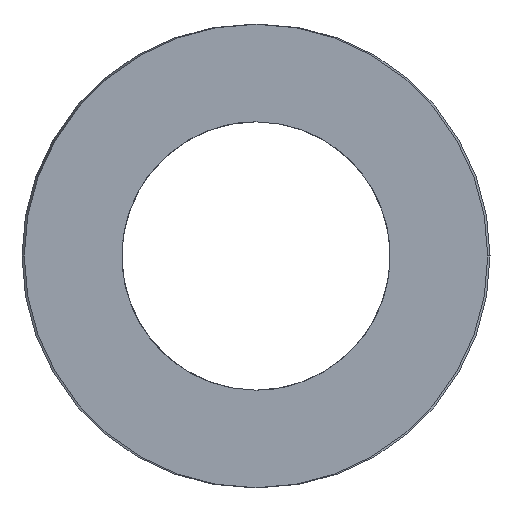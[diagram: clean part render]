
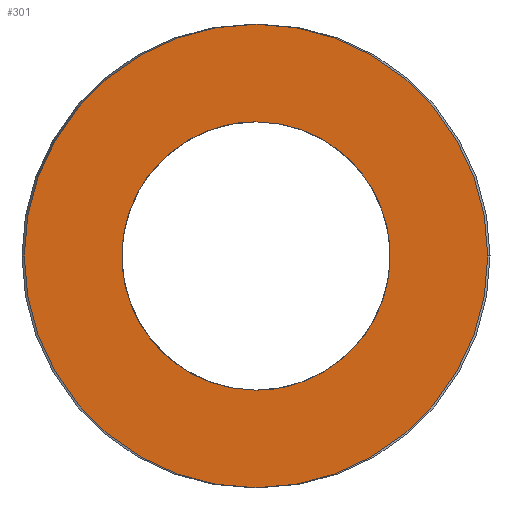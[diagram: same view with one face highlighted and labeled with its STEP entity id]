
A CAD part, left-side view. The second image highlights one B-rep face of the part: STEP entity #301.
In plain terms, the highlighted planar face has unit normal (-1, 0, 0).
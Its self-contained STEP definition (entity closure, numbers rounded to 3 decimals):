
#63=CARTESIAN_POINT('Vertex',(0.,7.6,0.)) ;
#77=CARTESIAN_POINT('Vertex',(0.,-7.6,0.)) ;
#80=CARTESIAN_POINT('Axis2P3D Location',(0.,0.,0.)) ;
#97=CARTESIAN_POINT('Axis2P3D Location',(0.,0.,0.)) ;
#232=CARTESIAN_POINT('Axis2P3D Location',(0.,3.8,0.)) ;
#242=CARTESIAN_POINT('Control Point',(0.,0.,-4.4)) ;
#243=CARTESIAN_POINT('Control Point',(0.,0.411,-4.4)) ;
#244=CARTESIAN_POINT('Control Point',(0.,0.822,-4.352)) ;
#245=CARTESIAN_POINT('Control Point',(0.,1.226,-4.256)) ;
#246=CARTESIAN_POINT('Control Point',(0.,2.003,-3.972)) ;
#247=CARTESIAN_POINT('Control Point',(0.,2.694,-3.516)) ;
#248=CARTESIAN_POINT('Control Point',(0.,3.011,-3.248)) ;
#249=CARTESIAN_POINT('Control Point',(0.,3.577,-2.644)) ;
#250=CARTESIAN_POINT('Control Point',(0.,3.988,-1.926)) ;
#251=CARTESIAN_POINT('Control Point',(0.,4.151,-1.544)) ;
#252=CARTESIAN_POINT('Control Point',(0.,4.384,-0.75)) ;
#253=CARTESIAN_POINT('Control Point',(0.,4.428,0.076)) ;
#254=CARTESIAN_POINT('Control Point',(0.,4.402,0.49)) ;
#255=CARTESIAN_POINT('Control Point',(0.,4.252,1.304)) ;
#256=CARTESIAN_POINT('Control Point',(0.,3.92,2.062)) ;
#257=CARTESIAN_POINT('Control Point',(0.,3.71,2.42)) ;
#258=CARTESIAN_POINT('Control Point',(0.,3.21,3.079)) ;
#259=CARTESIAN_POINT('Control Point',(0.,2.571,3.606)) ;
#260=CARTESIAN_POINT('Control Point',(0.,2.223,3.831)) ;
#261=CARTESIAN_POINT('Control Point',(0.,1.581,4.145)) ;
#262=CARTESIAN_POINT('Control Point',(0.,0.892,4.324)) ;
#263=CARTESIAN_POINT('Control Point',(0.,0.597,4.375)) ;
#264=CARTESIAN_POINT('Control Point',(0.,0.298,4.4)) ;
#265=CARTESIAN_POINT('Control Point',(0.,0.,4.4)) ;
#266=CARTESIAN_POINT('Vertex',(0.,0.,-4.4)) ;
#268=CARTESIAN_POINT('Vertex',(0.,0.,4.4)) ;
#272=CARTESIAN_POINT('Control Point',(0.,0.,4.4)) ;
#273=CARTESIAN_POINT('Control Point',(0.,-0.411,4.4)) ;
#274=CARTESIAN_POINT('Control Point',(0.,-0.822,4.352)) ;
#275=CARTESIAN_POINT('Control Point',(0.,-1.226,4.256)) ;
#276=CARTESIAN_POINT('Control Point',(0.,-2.003,3.972)) ;
#277=CARTESIAN_POINT('Control Point',(0.,-2.694,3.516)) ;
#278=CARTESIAN_POINT('Control Point',(0.,-3.011,3.248)) ;
#279=CARTESIAN_POINT('Control Point',(0.,-3.577,2.644)) ;
#280=CARTESIAN_POINT('Control Point',(0.,-3.988,1.926)) ;
#281=CARTESIAN_POINT('Control Point',(0.,-4.151,1.544)) ;
#282=CARTESIAN_POINT('Control Point',(0.,-4.384,0.75)) ;
#283=CARTESIAN_POINT('Control Point',(0.,-4.428,-0.076)) ;
#284=CARTESIAN_POINT('Control Point',(0.,-4.402,-0.49)) ;
#285=CARTESIAN_POINT('Control Point',(0.,-4.252,-1.304)) ;
#286=CARTESIAN_POINT('Control Point',(0.,-3.92,-2.062)) ;
#287=CARTESIAN_POINT('Control Point',(0.,-3.71,-2.42)) ;
#288=CARTESIAN_POINT('Control Point',(0.,-3.21,-3.079)) ;
#289=CARTESIAN_POINT('Control Point',(0.,-2.571,-3.606)) ;
#290=CARTESIAN_POINT('Control Point',(0.,-2.223,-3.831)) ;
#291=CARTESIAN_POINT('Control Point',(0.,-1.581,-4.145)) ;
#292=CARTESIAN_POINT('Control Point',(0.,-0.892,-4.324)) ;
#293=CARTESIAN_POINT('Control Point',(0.,-0.597,-4.375)) ;
#294=CARTESIAN_POINT('Control Point',(0.,-0.298,-4.4)) ;
#295=CARTESIAN_POINT('Control Point',(0.,0.,-4.4)) ;
#81=DIRECTION('Axis2P3D Direction',(1.,-0.,0.)) ;
#98=DIRECTION('Axis2P3D Direction',(1.,-0.,0.)) ;
#233=DIRECTION('Axis2P3D Direction',(-1.,0.,0.)) ;
#234=DIRECTION('Axis2P3D XDirection',(0.,1.,0.)) ;
#82=AXIS2_PLACEMENT_3D('Circle Axis2P3D',#80,#81,$) ;
#99=AXIS2_PLACEMENT_3D('Circle Axis2P3D',#97,#98,$) ;
#235=AXIS2_PLACEMENT_3D('Plane Axis2P3D',#232,#233,#234) ;
#238=ORIENTED_EDGE('',*,*,#84,.T.) ;
#239=ORIENTED_EDGE('',*,*,#101,.T.) ;
#298=ORIENTED_EDGE('',*,*,#270,.T.) ;
#299=ORIENTED_EDGE('',*,*,#296,.T.) ;
#300=FACE_BOUND('',#297,.T.) ;
#301=ADVANCED_FACE('392-B16-305',(#240,#300),#236,.T.) ;
#241=B_SPLINE_CURVE_WITH_KNOTS('',5,(#242,#243,#244,#245,#246,#247,#248,#249,#250,#251,#252,#253,#254,#255,#256,#257,#258,#259,#260,#261,#262,#263,#264,#265),.UNSPECIFIED.,.F.,.U.,(6,3,3,3,3,3,3,6),(0.,2.907,5.813,8.72,11.626,14.533,17.439,19.549),.UNSPECIFIED.) ;
#271=B_SPLINE_CURVE_WITH_KNOTS('',5,(#272,#273,#274,#275,#276,#277,#278,#279,#280,#281,#282,#283,#284,#285,#286,#287,#288,#289,#290,#291,#292,#293,#294,#295),.UNSPECIFIED.,.F.,.U.,(6,3,3,3,3,3,3,6),(0.,2.907,5.813,8.72,11.626,14.533,17.439,19.549),.UNSPECIFIED.) ;
#83=CIRCLE('generated circle',#82,7.6) ;
#100=CIRCLE('generated circle',#99,7.6) ;
#84=EDGE_CURVE('',#64,#78,#83,.F.) ;
#101=EDGE_CURVE('',#78,#64,#100,.F.) ;
#270=EDGE_CURVE('',#267,#269,#241,.T.) ;
#296=EDGE_CURVE('',#269,#267,#271,.T.) ;
#237=EDGE_LOOP('',(#238,#239)) ;
#297=EDGE_LOOP('',(#298,#299)) ;
#240=FACE_OUTER_BOUND('',#237,.T.) ;
#236=PLANE('Plane',#235) ;
#64=VERTEX_POINT('',#63) ;
#78=VERTEX_POINT('',#77) ;
#267=VERTEX_POINT('',#266) ;
#269=VERTEX_POINT('',#268) ;
